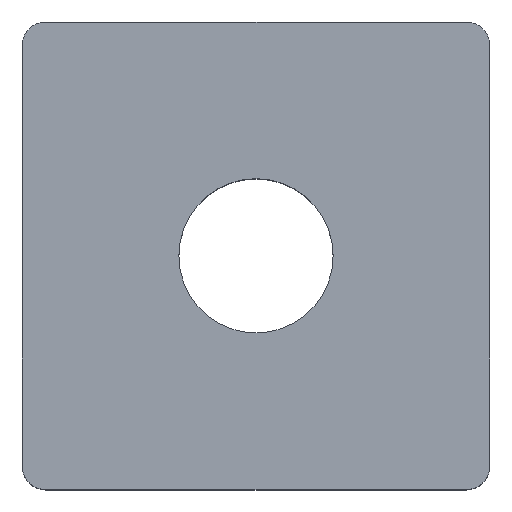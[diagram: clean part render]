
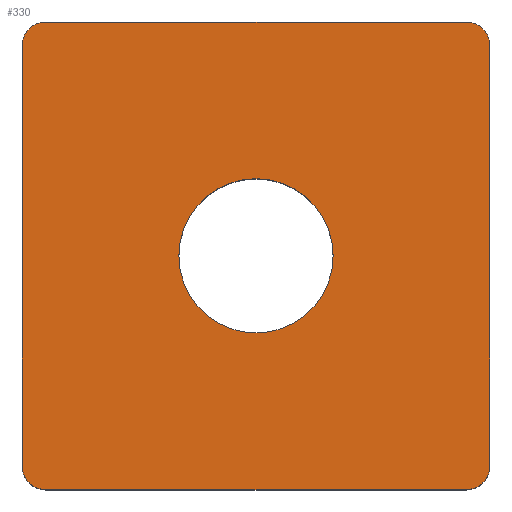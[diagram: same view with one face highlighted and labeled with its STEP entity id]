
A CAD part, top view. The second image highlights one B-rep face of the part: STEP entity #330.
In plain terms, the highlighted planar face has unit normal (0, 0, 1).
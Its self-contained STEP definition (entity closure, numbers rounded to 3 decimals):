
#1 = EDGE_CURVE ( 'NONE', #322, #214, #96, .T. ) ;
#3 = VERTEX_POINT ( 'NONE', #355 ) ;
#8 = DIRECTION ( 'NONE',  ( 0., 1., 0. ) ) ;
#18 = EDGE_CURVE ( 'NONE', #149, #329, #162, .T. ) ;
#22 = CARTESIAN_POINT ( 'NONE',  ( 5., 5., 2.5 ) ) ;
#23 = EDGE_CURVE ( 'NONE', #329, #41, #414, .T. ) ;
#35 = EDGE_CURVE ( 'NONE', #350, #90, #64, .T. ) ;
#38 = CARTESIAN_POINT ( 'NONE',  ( -5., -5., 2.5 ) ) ;
#40 = DIRECTION ( 'NONE',  ( 1., 0., 0. ) ) ;
#41 = VERTEX_POINT ( 'NONE', #237 ) ;
#44 = CARTESIAN_POINT ( 'NONE',  ( 1.65, 0., 2.5 ) ) ;
#45 = DIRECTION ( 'NONE',  ( 0., 0., 1. ) ) ;
#46 = EDGE_CURVE ( 'NONE', #127, #137, #106, .T. ) ;
#47 = CARTESIAN_POINT ( 'NONE',  ( 4.5, 4.5, 2.5 ) ) ;
#51 = CARTESIAN_POINT ( 'NONE',  ( -1.65, 0., 2.5 ) ) ;
#56 = DIRECTION ( 'NONE',  ( 1., 0., 0. ) ) ;
#57 = DIRECTION ( 'NONE',  ( 0., 0., 1. ) ) ;
#60 = CARTESIAN_POINT ( 'NONE',  ( 0., 0., 2.5 ) ) ;
#64 = CIRCLE ( 'NONE', #399, 0.5 ) ;
#67 = CARTESIAN_POINT ( 'NONE',  ( 5., -4.5, 2.5 ) ) ;
#72 = VECTOR ( 'NONE', #268, 1000. ) ;
#84 = LINE ( 'NONE', #22, #256 ) ;
#85 = CARTESIAN_POINT ( 'NONE',  ( -5., 5., 2.5 ) ) ;
#90 = VERTEX_POINT ( 'NONE', #67 ) ;
#93 = VECTOR ( 'NONE', #105, 1000. ) ;
#94 = ORIENTED_EDGE ( 'NONE', *, *, #35, .T. ) ;
#96 = CIRCLE ( 'NONE', #409, 0.5 ) ;
#100 = ORIENTED_EDGE ( 'NONE', *, *, #1, .T. ) ;
#103 = LINE ( 'NONE', #85, #93 ) ;
#105 = DIRECTION ( 'NONE',  ( 0., -1., 0. ) ) ;
#106 = CIRCLE ( 'NONE', #390, 1.65 ) ;
#109 = EDGE_CURVE ( 'NONE', #3, #149, #173, .T. ) ;
#119 = ORIENTED_EDGE ( 'NONE', *, *, #23, .T. ) ;
#127 = VERTEX_POINT ( 'NONE', #44 ) ;
#136 = CARTESIAN_POINT ( 'NONE',  ( 4.5, -5., 2.5 ) ) ;
#137 = VERTEX_POINT ( 'NONE', #51 ) ;
#146 = DIRECTION ( 'NONE',  ( 1., 0., 0. ) ) ;
#147 = DIRECTION ( 'NONE',  ( 0., 0., 1. ) ) ;
#149 = VERTEX_POINT ( 'NONE', #304 ) ;
#152 = CARTESIAN_POINT ( 'NONE',  ( -5., 5., 2.5 ) ) ;
#158 = DIRECTION ( 'NONE',  ( 1., 0., 0. ) ) ;
#160 = LINE ( 'NONE', #38, #72 ) ;
#161 = DIRECTION ( 'NONE',  ( 0., 0., 1. ) ) ;
#162 = LINE ( 'NONE', #277, #228 ) ;
#164 = CARTESIAN_POINT ( 'NONE',  ( -4.5, 5., 2.5 ) ) ;
#171 = CARTESIAN_POINT ( 'NONE',  ( 0., 0., 2.5 ) ) ;
#172 = CARTESIAN_POINT ( 'NONE',  ( -5., -4.5, 2.5 ) ) ;
#173 = CIRCLE ( 'NONE', #374, 0.5 ) ;
#174 = PLANE ( 'NONE',  #298 ) ;
#191 = ORIENTED_EDGE ( 'NONE', *, *, #421, .F. ) ;
#192 = CARTESIAN_POINT ( 'NONE',  ( 4.5, -4.5, 2.5 ) ) ;
#205 = DIRECTION ( 'NONE',  ( 0., 0., 1. ) ) ;
#214 = VERTEX_POINT ( 'NONE', #218 ) ;
#216 = DIRECTION ( 'NONE',  ( 1., 0., 0. ) ) ;
#218 = CARTESIAN_POINT ( 'NONE',  ( -4.5, -5., 2.5 ) ) ;
#221 = ORIENTED_EDGE ( 'NONE', *, *, #18, .T. ) ;
#228 = VECTOR ( 'NONE', #321, 1000. ) ;
#231 = DIRECTION ( 'NONE',  ( 1., 0., 0. ) ) ;
#236 = CARTESIAN_POINT ( 'NONE',  ( -4.5, 4.5, 2.5 ) ) ;
#237 = CARTESIAN_POINT ( 'NONE',  ( -5., 4.5, 2.5 ) ) ;
#244 = DIRECTION ( 'NONE',  ( 0., 0., 1. ) ) ;
#256 = VECTOR ( 'NONE', #8, 1000. ) ;
#259 = AXIS2_PLACEMENT_3D ( 'NONE', #60, #57, #56 ) ;
#267 = ORIENTED_EDGE ( 'NONE', *, *, #441, .T. ) ;
#268 = DIRECTION ( 'NONE',  ( 1., 0., 0. ) ) ;
#274 = FACE_BOUND ( 'NONE', #367, .T. ) ;
#277 = CARTESIAN_POINT ( 'NONE',  ( -5., 5., 2.5 ) ) ;
#298 = AXIS2_PLACEMENT_3D ( 'NONE', #152, #147, #146 ) ;
#304 = CARTESIAN_POINT ( 'NONE',  ( 4.5, 5., 2.5 ) ) ;
#316 = DIRECTION ( 'NONE',  ( 1., 0., 0. ) ) ;
#321 = DIRECTION ( 'NONE',  ( -1., 0., 0. ) ) ;
#322 = VERTEX_POINT ( 'NONE', #172 ) ;
#329 = VERTEX_POINT ( 'NONE', #164 ) ;
#330 = ADVANCED_FACE ( 'NONE', ( #274, #438 ), #174, .T. ) ;
#337 = ORIENTED_EDGE ( 'NONE', *, *, #419, .T. ) ;
#350 = VERTEX_POINT ( 'NONE', #136 ) ;
#355 = CARTESIAN_POINT ( 'NONE',  ( 5., 4.5, 2.5 ) ) ;
#357 = DIRECTION ( 'NONE',  ( 0., 0., 1. ) ) ;
#358 = ORIENTED_EDGE ( 'NONE', *, *, #46, .F. ) ;
#367 = EDGE_LOOP ( 'NONE', ( #358, #191 ) ) ;
#374 = AXIS2_PLACEMENT_3D ( 'NONE', #47, #45, #40 ) ;
#376 = EDGE_LOOP ( 'NONE', ( #221, #119, #337, #100, #267, #94, #416, #403 ) ) ;
#379 = CIRCLE ( 'NONE', #259, 1.65 ) ;
#385 = CARTESIAN_POINT ( 'NONE',  ( -4.5, -4.5, 2.5 ) ) ;
#390 = AXIS2_PLACEMENT_3D ( 'NONE', #171, #161, #158 ) ;
#399 = AXIS2_PLACEMENT_3D ( 'NONE', #192, #205, #216 ) ;
#403 = ORIENTED_EDGE ( 'NONE', *, *, #109, .T. ) ;
#405 = AXIS2_PLACEMENT_3D ( 'NONE', #236, #244, #231 ) ;
#409 = AXIS2_PLACEMENT_3D ( 'NONE', #385, #357, #316 ) ;
#414 = CIRCLE ( 'NONE', #405, 0.5 ) ;
#416 = ORIENTED_EDGE ( 'NONE', *, *, #433, .T. ) ;
#419 = EDGE_CURVE ( 'NONE', #41, #322, #103, .T. ) ;
#421 = EDGE_CURVE ( 'NONE', #137, #127, #379, .T. ) ;
#433 = EDGE_CURVE ( 'NONE', #90, #3, #84, .T. ) ;
#438 = FACE_OUTER_BOUND ( 'NONE', #376, .T. ) ;
#441 = EDGE_CURVE ( 'NONE', #214, #350, #160, .T. ) ;
